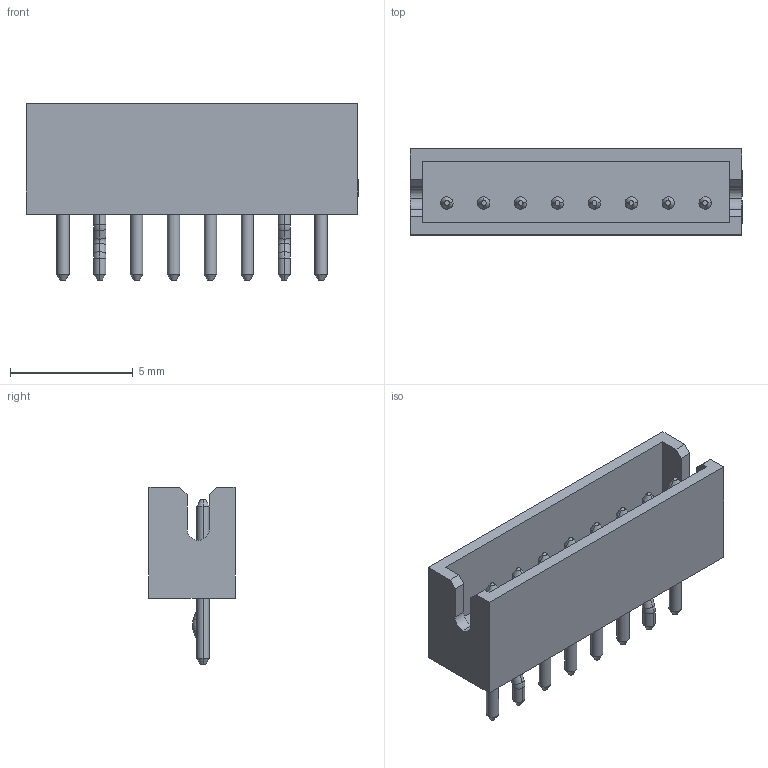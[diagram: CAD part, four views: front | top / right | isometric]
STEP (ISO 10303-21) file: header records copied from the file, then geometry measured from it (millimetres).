
FILE_DESCRIPTION (( 'STEP AP214' ), '1' );
FILE_NAME ('CONN-TH_B8B-ZR-LF-SN.step', '2022-08-05T10:30:49', ( '' ), ( '' ), 'SwSTEP 2.0', 'SolidWorks 2020', '' );
FILE_SCHEMA (( 'AUTOMOTIVE_DESIGN' ));
Length unit declared in the file: millimetre
Products named in the file (1): CONN-TH_B8B-ZR-LF-SN
Bounding box: 13.5 x 3.5 x 7.2 mm (x, y, z)
Volume: 124.7 mm3; surface area: 395.7 mm2
Topology: 14 solids, 14 shells, 359 faces, 889 edges, 574 vertices
Faces by surface type: plane 169, bspline 98, cylinder 48, cone 32, torus 12
Entity records: 15211 total; most frequent: CARTESIAN_POINT 3129, ORIENTED_EDGE 1778, DIRECTION 1353, EDGE_CURVE 889, VERTEX_POINT 574, LINE 549, VECTOR 549, AXIS2_PLACEMENT_3D 402
